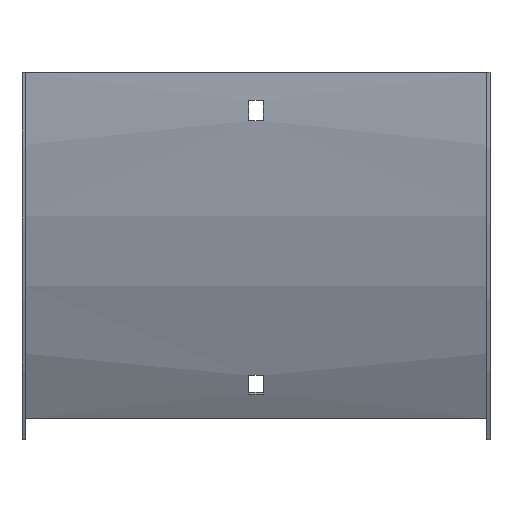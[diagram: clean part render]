
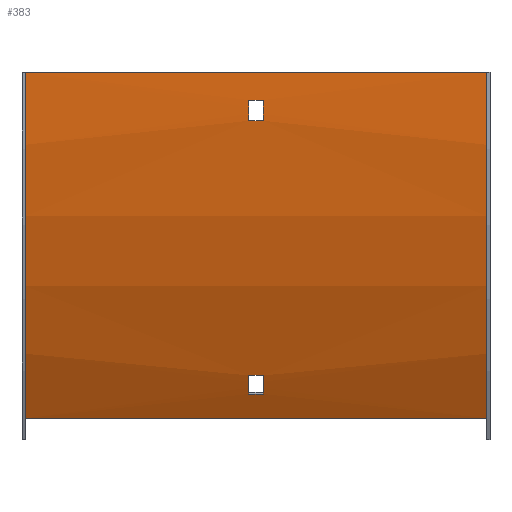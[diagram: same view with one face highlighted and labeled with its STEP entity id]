
A CAD part, front view. The second image highlights one B-rep face of the part: STEP entity #383.
In plain terms, the highlighted cylindrical face has radius 300 mm (diameter 600 mm), a partial arc.
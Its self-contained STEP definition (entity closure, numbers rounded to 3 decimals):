
#7 = FACE_OUTER_BOUND ( 'NONE', #78, .T. ) ;
#12 = VERTEX_POINT ( 'NONE', #202 ) ;
#15 = CARTESIAN_POINT ( 'NONE',  ( -100., -1.5, 0. ) ) ;
#29 = CARTESIAN_POINT ( 'NONE',  ( -100., 298.5, 0. ) ) ;
#32 = AXIS2_PLACEMENT_3D ( 'NONE', #332, #374, #371 ) ;
#33 = DIRECTION ( 'NONE',  ( -1., 0., 0. ) ) ;
#36 = EDGE_CURVE ( 'NONE', #593, #252, #116, .T. ) ;
#37 = CARTESIAN_POINT ( 'NONE',  ( 100., 38.692, -150. ) ) ;
#60 = VECTOR ( 'NONE', #178, 1000. ) ;
#62 = EDGE_CURVE ( 'NONE', #155, #342, #482, .T. ) ;
#64 = CARTESIAN_POINT ( 'NONE',  ( 3.25, 298.5, 0. ) ) ;
#68 = CIRCLE ( 'NONE', #479, 300. ) ;
#69 = CARTESIAN_POINT ( 'NONE',  ( 101.5, 32.9, -139.488 ) ) ;
#71 = DIRECTION ( 'NONE',  ( 1., 0., 0. ) ) ;
#78 = EDGE_LOOP ( 'NONE', ( #590, #242, #417, #292 ) ) ;
#82 = ORIENTED_EDGE ( 'NONE', *, *, #337, .F. ) ;
#89 = VECTOR ( 'NONE', #314, 1000. ) ;
#94 = AXIS2_PLACEMENT_3D ( 'NONE', #64, #71, #595 ) ;
#95 = VECTOR ( 'NONE', #501, 1000. ) ;
#99 = CARTESIAN_POINT ( 'NONE',  ( -3.25, 28.83, -131.446 ) ) ;
#101 = EDGE_CURVE ( 'NONE', #369, #252, #488, .T. ) ;
#105 = ORIENTED_EDGE ( 'NONE', *, *, #130, .T. ) ;
#109 = DIRECTION ( 'NONE',  ( 1., 0., 0. ) ) ;
#110 = CARTESIAN_POINT ( 'NONE',  ( 100., -1.5, 0. ) ) ;
#116 = LINE ( 'NONE', #110, #95 ) ;
#120 = CARTESIAN_POINT ( 'NONE',  ( 3.25, 32.9, -139.488 ) ) ;
#126 = CIRCLE ( 'NONE', #203, 300. ) ;
#130 = EDGE_CURVE ( 'NONE', #342, #317, #162, .T. ) ;
#132 = CARTESIAN_POINT ( 'NONE',  ( 100., -1.5, 0. ) ) ;
#133 = CARTESIAN_POINT ( 'NONE',  ( -3.25, 298.5, 0. ) ) ;
#134 = CARTESIAN_POINT ( 'NONE',  ( 100., 38.692, -150. ) ) ;
#155 = VERTEX_POINT ( 'NONE', #602 ) ;
#161 = EDGE_LOOP ( 'NONE', ( #105, #442, #490, #598 ) ) ;
#162 = LINE ( 'NONE', #69, #536 ) ;
#164 = DIRECTION ( 'NONE',  ( -1., 0., 0. ) ) ;
#168 = EDGE_CURVE ( 'NONE', #198, #155, #606, .T. ) ;
#174 = LINE ( 'NONE', #363, #89 ) ;
#178 = DIRECTION ( 'NONE',  ( 1., 0., 0. ) ) ;
#186 = EDGE_CURVE ( 'NONE', #317, #198, #68, .T. ) ;
#190 = CARTESIAN_POINT ( 'NONE',  ( -3.25, 32.9, -139.488 ) ) ;
#192 = LINE ( 'NONE', #134, #229 ) ;
#198 = VERTEX_POINT ( 'NONE', #99 ) ;
#202 = CARTESIAN_POINT ( 'NONE',  ( -3.25, -1.26, -12. ) ) ;
#203 = AXIS2_PLACEMENT_3D ( 'NONE', #328, #523, #235 ) ;
#226 = AXIS2_PLACEMENT_3D ( 'NONE', #29, #164, #347 ) ;
#229 = VECTOR ( 'NONE', #33, 1000. ) ;
#235 = DIRECTION ( 'NONE',  ( 0., 0., 1. ) ) ;
#242 = ORIENTED_EDGE ( 'NONE', *, *, #461, .F. ) ;
#252 = VERTEX_POINT ( 'NONE', #15 ) ;
#254 = DIRECTION ( 'NONE',  ( -1., 0., 0. ) ) ;
#286 = EDGE_LOOP ( 'NONE', ( #82, #540, #431, #553 ) ) ;
#292 = ORIENTED_EDGE ( 'NONE', *, *, #36, .T. ) ;
#314 = DIRECTION ( 'NONE',  ( -1., 0., 0. ) ) ;
#317 = VERTEX_POINT ( 'NONE', #190 ) ;
#319 = DIRECTION ( 'NONE',  ( -1., 0., 0. ) ) ;
#328 = CARTESIAN_POINT ( 'NONE',  ( 100., 298.5, 0. ) ) ;
#332 = CARTESIAN_POINT ( 'NONE',  ( 101.5, 298.5, 0. ) ) ;
#333 = CARTESIAN_POINT ( 'NONE',  ( -3.25, 298.5, 0. ) ) ;
#337 = EDGE_CURVE ( 'NONE', #12, #535, #400, .T. ) ;
#338 = CARTESIAN_POINT ( 'NONE',  ( 3.25, -1.26, -12. ) ) ;
#342 = VERTEX_POINT ( 'NONE', #120 ) ;
#347 = DIRECTION ( 'NONE',  ( 0., 0., 1. ) ) ;
#356 = CARTESIAN_POINT ( 'NONE',  ( 101.5, 28.83, -131.446 ) ) ;
#359 = EDGE_CURVE ( 'NONE', #535, #517, #537, .T. ) ;
#360 = AXIS2_PLACEMENT_3D ( 'NONE', #493, #401, #409 ) ;
#363 = CARTESIAN_POINT ( 'NONE',  ( 101.5, -1.26, -12. ) ) ;
#369 = VERTEX_POINT ( 'NONE', #489 ) ;
#371 = DIRECTION ( 'NONE',  ( 0., 0., 1. ) ) ;
#372 = VECTOR ( 'NONE', #109, 1000. ) ;
#374 = DIRECTION ( 'NONE',  ( -1., 0., 0. ) ) ;
#383 = ADVANCED_FACE ( 'NONE', ( #567, #7, #528 ), #413, .T. ) ;
#385 = CIRCLE ( 'NONE', #360, 300. ) ;
#400 = CIRCLE ( 'NONE', #508, 300. ) ;
#401 = DIRECTION ( 'NONE',  ( -1., 0., 0. ) ) ;
#408 = CARTESIAN_POINT ( 'NONE',  ( 3.25, -0.764, -21. ) ) ;
#409 = DIRECTION ( 'NONE',  ( 0., 0., -1. ) ) ;
#413 = CYLINDRICAL_SURFACE ( 'NONE', #32, 300. ) ;
#417 = ORIENTED_EDGE ( 'NONE', *, *, #446, .T. ) ;
#431 = ORIENTED_EDGE ( 'NONE', *, *, #562, .F. ) ;
#432 = DIRECTION ( 'NONE',  ( 0., 0., 1. ) ) ;
#440 = DIRECTION ( 'NONE',  ( 1., 0., 0. ) ) ;
#442 = ORIENTED_EDGE ( 'NONE', *, *, #186, .T. ) ;
#446 = EDGE_CURVE ( 'NONE', #580, #593, #126, .T. ) ;
#457 = DIRECTION ( 'NONE',  ( 0., 0., -1. ) ) ;
#461 = EDGE_CURVE ( 'NONE', #580, #369, #192, .T. ) ;
#479 = AXIS2_PLACEMENT_3D ( 'NONE', #133, #319, #457 ) ;
#482 = CIRCLE ( 'NONE', #94, 300. ) ;
#488 = CIRCLE ( 'NONE', #226, 300. ) ;
#489 = CARTESIAN_POINT ( 'NONE',  ( -100., 38.692, -150. ) ) ;
#490 = ORIENTED_EDGE ( 'NONE', *, *, #168, .T. ) ;
#493 = CARTESIAN_POINT ( 'NONE',  ( 3.25, 298.5, 0. ) ) ;
#501 = DIRECTION ( 'NONE',  ( -1., 0., 0. ) ) ;
#508 = AXIS2_PLACEMENT_3D ( 'NONE', #333, #440, #432 ) ;
#517 = VERTEX_POINT ( 'NONE', #408 ) ;
#518 = EDGE_CURVE ( 'NONE', #545, #12, #174, .T. ) ;
#523 = DIRECTION ( 'NONE',  ( -1., 0., 0. ) ) ;
#528 = FACE_BOUND ( 'NONE', #161, .T. ) ;
#535 = VERTEX_POINT ( 'NONE', #578 ) ;
#536 = VECTOR ( 'NONE', #254, 1000. ) ;
#537 = LINE ( 'NONE', #541, #372 ) ;
#540 = ORIENTED_EDGE ( 'NONE', *, *, #518, .F. ) ;
#541 = CARTESIAN_POINT ( 'NONE',  ( 101.5, -0.764, -21. ) ) ;
#545 = VERTEX_POINT ( 'NONE', #338 ) ;
#553 = ORIENTED_EDGE ( 'NONE', *, *, #359, .F. ) ;
#562 = EDGE_CURVE ( 'NONE', #517, #545, #385, .T. ) ;
#567 = FACE_BOUND ( 'NONE', #286, .T. ) ;
#578 = CARTESIAN_POINT ( 'NONE',  ( -3.25, -0.764, -21. ) ) ;
#580 = VERTEX_POINT ( 'NONE', #37 ) ;
#590 = ORIENTED_EDGE ( 'NONE', *, *, #101, .F. ) ;
#593 = VERTEX_POINT ( 'NONE', #132 ) ;
#595 = DIRECTION ( 'NONE',  ( 0., 0., 1. ) ) ;
#598 = ORIENTED_EDGE ( 'NONE', *, *, #62, .T. ) ;
#602 = CARTESIAN_POINT ( 'NONE',  ( 3.25, 28.83, -131.446 ) ) ;
#606 = LINE ( 'NONE', #356, #60 ) ;
